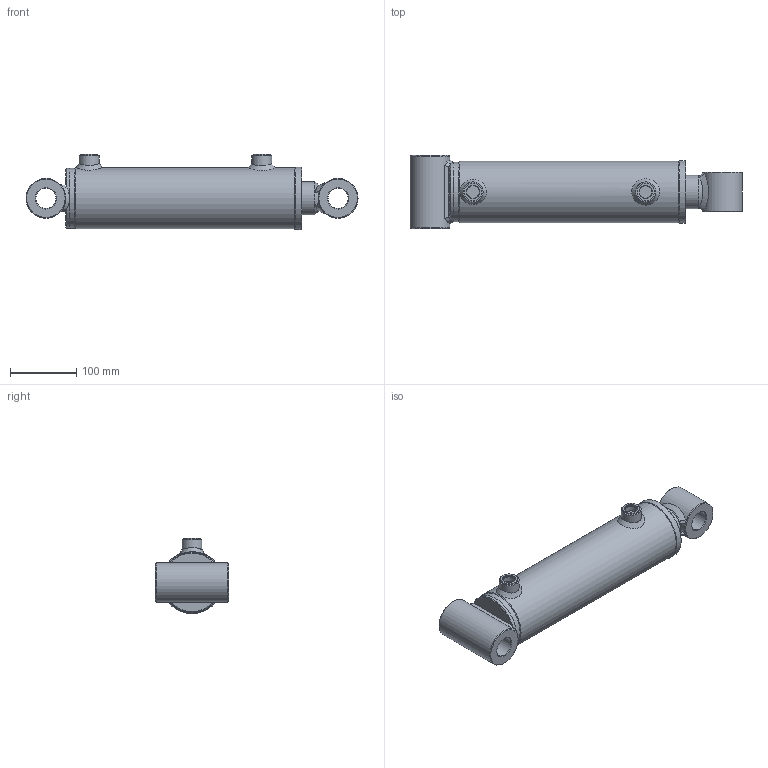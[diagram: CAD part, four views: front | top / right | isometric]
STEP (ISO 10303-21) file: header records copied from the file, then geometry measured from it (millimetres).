
FILE_DESCRIPTION( ( 'Unknown' ), '1' );
FILE_NAME( 'E:/LIBRERIA_3d/CILINDRI/HM2/HM25500200.stp', 'Unknown', ( 'Unknown' ), ( 'Unknown' ), 'PSStep 17.0.49', 'Unknown', ' ' );
FILE_SCHEMA( ( 'AUTOMOTIVE_DESIGN { 1 0 10303 214 1 1 1 1 }' ) );
Length unit declared in the file: millimetre
Products named in the file (27): CG09508050; STL5600200-oa6; Saldatura d'angolo 1-oa4; FTM5600200-oa5; CBS0800000; CT00080027; HM05500200; Saldatura con preparazione 1-oa2; Saldatura d'angolo 1-oa3; CF00080090; CDA0002720; APG0800000; SBL5050200; Assem1; CB30060060; CB30060110; Saldatura d'angolo 1-oa0; Saldatura d'angolo 2-oa1
Assembly tree (18 placements, depth 4):
  Saldatura d'angolo 1-oa4
  Saldatura d'angolo 1-oa4
  Saldatura d'angolo 1-oa3
  Saldatura d'angolo 1-oa3
  Assem1
    CB30060060
    CB30060110
    HM05500200
      Saldatura con preparazione 1-oa2
      Saldatura con preparazione 1-oa2
      CF00080090
      CBS0800000
      CDA0002720
      APG0800000  x2
      SBL5050200
      CT00080027
        CT00080027
      CG09508050
        CG09508050
      STL5600200-oa6
        FTM5600200-oa5
        CBS0800000
Bounding box: 500 x 110 x 113 mm (x, y, z)
Volume: 1985040.4 mm3; surface area: 429071.9 mm2
Topology: 24 solids, 24 shells, 304 faces, 618 edges, 373 vertices
Faces by surface type: plane 84, bspline 84, cylinder 60, cone 40, torus 36
Full cylindrical faces by diameter (mm): 4.25 x1, 8 x2, 12 x1, 18.631 x2, 19.5 x2, 20.95 x2, 26 x2, 26.4 x1, 27 x5, 30 x2, 30.25 x2, 33.2 x1, 41 x1, 50 x5, 53 x3, 58.6 x1, 60 x4, 74.16 x2, 75 x1, 78.34 x2, 79.9 x1, 80 x1, 80.3 x1, 80.5 x1, 80.6 x1, 81 x1, 82 x3, 82.835 x1, 85 x1, 90 x3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
Entity records: 19397 total; most frequent: CARTESIAN_POINT 11893, DIRECTION 866, ORIENTED_EDGE 840, EDGE_LOOP 471, EDGE_CURVE 420, AXIS2_PLACEMENT_3D 414, FACE_OUTER_BOUND 392, VERTEX_POINT 322
